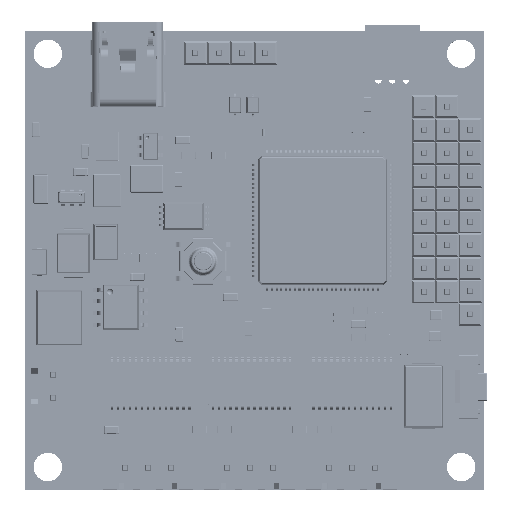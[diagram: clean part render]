
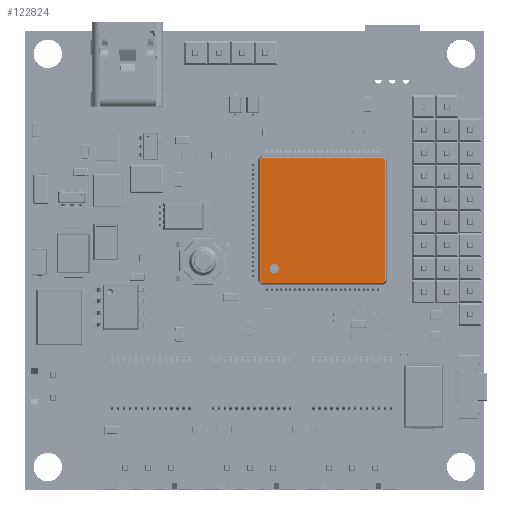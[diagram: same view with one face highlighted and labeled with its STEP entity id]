
A CAD part, top view. The second image highlights one B-rep face of the part: STEP entity #122824.
In plain terms, the highlighted planar face has unit normal (0, 0, 1).
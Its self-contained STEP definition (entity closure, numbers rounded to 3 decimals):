
#104569 = VERTEX_POINT('',#104570);
#104570 = CARTESIAN_POINT('',(-4.75,-5.25,1.6));
#104576 = EDGE_CURVE('',#104577,#104569,#104579,.T.);
#104577 = VERTEX_POINT('',#104578);
#104578 = CARTESIAN_POINT('',(-5.75,-5.25,1.6));
#104579 = CIRCLE('',#104580,0.5);
#104580 = AXIS2_PLACEMENT_3D('',#104581,#104582,#104583);
#104581 = CARTESIAN_POINT('',(-5.25,-5.25,1.6));
#104582 = DIRECTION('',(0.,0.,1.));
#104583 = DIRECTION('',(1.,0.,0.));
#122824 = ADVANCED_FACE('',(#122825,#122835),#122901,.T.);
#122825 = FACE_BOUND('',#122826,.T.);
#122826 = EDGE_LOOP('',(#122827,#122834));
#122827 = ORIENTED_EDGE('',*,*,#122828,.F.);
#122828 = EDGE_CURVE('',#104569,#104577,#122829,.T.);
#122829 = CIRCLE('',#122830,0.5);
#122830 = AXIS2_PLACEMENT_3D('',#122831,#122832,#122833);
#122831 = CARTESIAN_POINT('',(-5.25,-5.25,1.6));
#122832 = DIRECTION('',(0.,0.,1.));
#122833 = DIRECTION('',(1.,0.,0.));
#122834 = ORIENTED_EDGE('',*,*,#104576,.F.);
#122835 = FACE_BOUND('',#122836,.T.);
#122836 = EDGE_LOOP('',(#122837,#122847,#122855,#122863,#122871,#122879,
    #122887,#122895));
#122837 = ORIENTED_EDGE('',*,*,#122838,.T.);
#122838 = EDGE_CURVE('',#122839,#122841,#122843,.T.);
#122839 = VERTEX_POINT('',#122840);
#122840 = CARTESIAN_POINT('',(6.8,-6.567,1.6));
#122841 = VERTEX_POINT('',#122842);
#122842 = CARTESIAN_POINT('',(6.8,6.567,1.6));
#122843 = LINE('',#122844,#122845);
#122844 = CARTESIAN_POINT('',(6.8,-7.,1.6));
#122845 = VECTOR('',#122846,1.);
#122846 = DIRECTION('',(0.,1.,0.));
#122847 = ORIENTED_EDGE('',*,*,#122848,.T.);
#122848 = EDGE_CURVE('',#122841,#122849,#122851,.T.);
#122849 = VERTEX_POINT('',#122850);
#122850 = CARTESIAN_POINT('',(6.567,6.8,1.6));
#122851 = LINE('',#122852,#122853);
#122852 = CARTESIAN_POINT('',(6.683,6.683,1.6));
#122853 = VECTOR('',#122854,1.);
#122854 = DIRECTION('',(-0.707,0.707,0.));
#122855 = ORIENTED_EDGE('',*,*,#122856,.T.);
#122856 = EDGE_CURVE('',#122849,#122857,#122859,.T.);
#122857 = VERTEX_POINT('',#122858);
#122858 = CARTESIAN_POINT('',(-6.567,6.8,1.6));
#122859 = LINE('',#122860,#122861);
#122860 = CARTESIAN_POINT('',(-7.,6.8,1.6));
#122861 = VECTOR('',#122862,1.);
#122862 = DIRECTION('',(-1.,0.,0.));
#122863 = ORIENTED_EDGE('',*,*,#122864,.T.);
#122864 = EDGE_CURVE('',#122857,#122865,#122867,.T.);
#122865 = VERTEX_POINT('',#122866);
#122866 = CARTESIAN_POINT('',(-6.8,6.567,1.6));
#122867 = LINE('',#122868,#122869);
#122868 = CARTESIAN_POINT('',(-13.683,-0.317,1.6));
#122869 = VECTOR('',#122870,1.);
#122870 = DIRECTION('',(-0.707,-0.707,0.));
#122871 = ORIENTED_EDGE('',*,*,#122872,.T.);
#122872 = EDGE_CURVE('',#122865,#122873,#122875,.T.);
#122873 = VERTEX_POINT('',#122874);
#122874 = CARTESIAN_POINT('',(-6.8,-6.567,1.6));
#122875 = LINE('',#122876,#122877);
#122876 = CARTESIAN_POINT('',(-6.8,-7.,1.6));
#122877 = VECTOR('',#122878,1.);
#122878 = DIRECTION('',(0.,-1.,0.));
#122879 = ORIENTED_EDGE('',*,*,#122880,.T.);
#122880 = EDGE_CURVE('',#122873,#122881,#122883,.T.);
#122881 = VERTEX_POINT('',#122882);
#122882 = CARTESIAN_POINT('',(-6.567,-6.8,1.6));
#122883 = LINE('',#122884,#122885);
#122884 = CARTESIAN_POINT('',(-6.683,-6.683,1.6));
#122885 = VECTOR('',#122886,1.);
#122886 = DIRECTION('',(0.707,-0.707,0.));
#122887 = ORIENTED_EDGE('',*,*,#122888,.T.);
#122888 = EDGE_CURVE('',#122881,#122889,#122891,.T.);
#122889 = VERTEX_POINT('',#122890);
#122890 = CARTESIAN_POINT('',(6.567,-6.8,1.6));
#122891 = LINE('',#122892,#122893);
#122892 = CARTESIAN_POINT('',(-7.,-6.8,1.6));
#122893 = VECTOR('',#122894,1.);
#122894 = DIRECTION('',(1.,0.,0.));
#122895 = ORIENTED_EDGE('',*,*,#122896,.T.);
#122896 = EDGE_CURVE('',#122889,#122839,#122897,.T.);
#122897 = LINE('',#122898,#122899);
#122898 = CARTESIAN_POINT('',(-0.317,-13.683,1.6));
#122899 = VECTOR('',#122900,1.);
#122900 = DIRECTION('',(0.707,0.707,0.));
#122901 = PLANE('',#122902);
#122902 = AXIS2_PLACEMENT_3D('',#122903,#122904,#122905);
#122903 = CARTESIAN_POINT('',(-7.,-7.,1.6));
#122904 = DIRECTION('',(0.,0.,1.));
#122905 = DIRECTION('',(1.,0.,0.));
